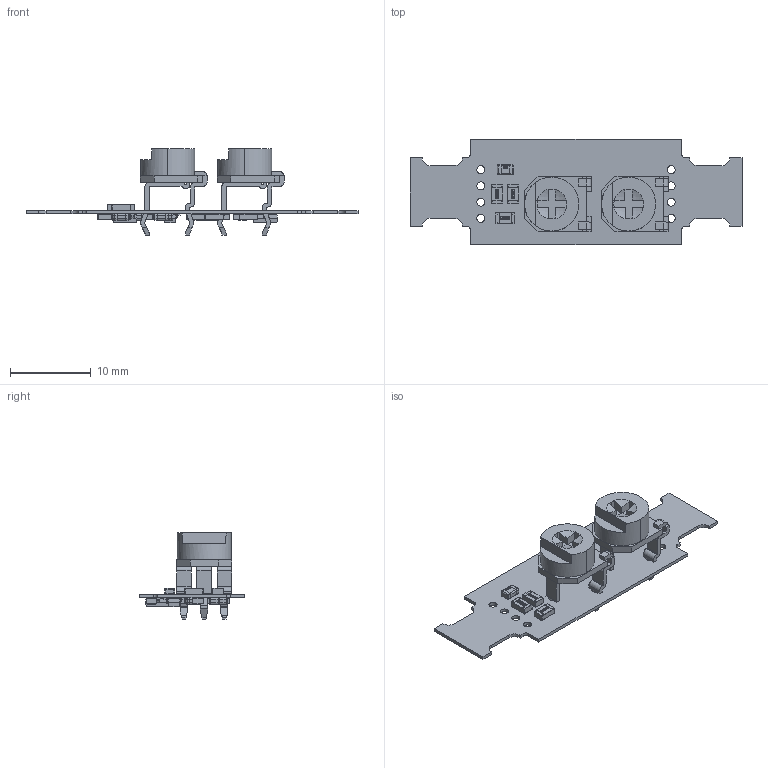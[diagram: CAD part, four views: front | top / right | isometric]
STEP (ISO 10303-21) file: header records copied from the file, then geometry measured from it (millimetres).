
FILE_DESCRIPTION(('Open CASCADE Model'),'2;1');
FILE_NAME('Open CASCADE Shape Model','2026-03-20T12:52:23',('Author'),( 'Open CASCADE'),'Open CASCADE STEP processor 6.8','Open CASCADE 6.8' ,'Unknown');
FILE_SCHEMA(('AUTOMOTIVE_DESIGN { 1 0 10303 214 1 1 1 1 }'));
Length unit declared in the file: millimetre
Products named in the file (36): PCB; BoardINTERFACE; R3INTERFACE; 0805_SMD_RES; R12INTERFACE; C1INTERFACE; 0805_SMD_Capacitor; C2INTERFACE; C4INTERFACE; C5INTERFACE; C7INTERFACE; D1INTERFACE; SOT-23; Q2INTERFACE; R1INTERFACE; R2INTERFACE; R4INTERFACE; R5INTERFACE; R7INTERFACE; R9INTERFACE; R10INTERFACE; R6INTERFACE; Trimmer_3306F-1; User_Library-Trimmer,_3306F-1_1_2; User_Library-Trimmer,_3306F-1_2_2; User_Library-Trimmer,_3306F-1_3_2; User_Library-Trimmer,_3306F-1_4_2; User_Library-Trimmer,_3306F-1_5_2; R8INTERFACE; Q1INTERFACE; C8INTERFACE; C6INTERFACE; C9INTERFACE; R14INTERFACE; R15INTERFACE; R16INTERFACE
Assembly tree (56 placements, depth 4):
  PCB
    BoardINTERFACE
    R3INTERFACE
      0805_SMD_RES
    R12INTERFACE
      0805_SMD_RES
    C1INTERFACE
      0805_SMD_Capacitor
    C2INTERFACE
      0805_SMD_Capacitor
    C4INTERFACE
      0805_SMD_Capacitor
    C5INTERFACE
      0805_SMD_Capacitor
    C7INTERFACE
      0805_SMD_Capacitor
    D1INTERFACE
      SOT-23
    Q2INTERFACE
      SOT-23
    R1INTERFACE
      0805_SMD_RES
    R2INTERFACE
      0805_SMD_RES
    R4INTERFACE
      0805_SMD_RES
    R5INTERFACE
      0805_SMD_RES
    R7INTERFACE
      0805_SMD_RES
    R9INTERFACE
      0805_SMD_RES
    R10INTERFACE
      0805_SMD_RES
    R6INTERFACE
      Trimmer_3306F-1
        User_Library-Trimmer,_3306F-1_1_2
        User_Library-Trimmer,_3306F-1_2_2
        User_Library-Trimmer,_3306F-1_3_2
        User_Library-Trimmer,_3306F-1_4_2
        User_Library-Trimmer,_3306F-1_5_2
    R8INTERFACE
      Trimmer_3306F-1
        User_Library-Trimmer,_3306F-1_1_2
        User_Library-Trimmer,_3306F-1_2_2
        User_Library-Trimmer,_3306F-1_3_2
        User_Library-Trimmer,_3306F-1_4_2
        User_Library-Trimmer,_3306F-1_5_2
    Q1INTERFACE
      SOT-23
    C8INTERFACE
      0805_SMD_Capacitor
    C6INTERFACE
      0805_SMD_Capacitor
    C9INTERFACE
      0805_SMD_Capacitor
    R14INTERFACE
      0805_SMD_RES
    R15INTERFACE
      0805_SMD_RES
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Bounding box: 41 x 13 x 10.65 mm (x, y, z)
Volume: 566.6 mm3; surface area: 2161 mm2
Topology: 70 solids, 70 shells, 2423 faces, 6101 edges, 3900 vertices
Faces by surface type: plane 1227, bspline 832, cylinder 300, sphere 64
Full cylindrical faces by diameter (mm): 1 x8, 1.1 x6
Entity records: 22035 total; most frequent: CARTESIAN_POINT 8223, ORIENTED_EDGE 2378, DIRECTION 2010, EDGE_CURVE 1189, LINE 784, VECTOR 784, VERTEX_POINT 772, AXIS2_PLACEMENT_3D 613
